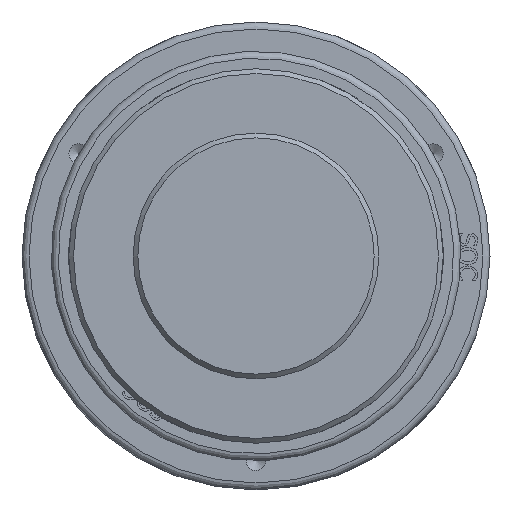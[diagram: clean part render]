
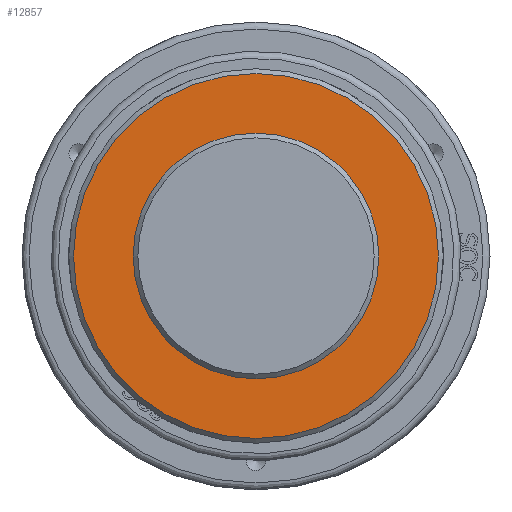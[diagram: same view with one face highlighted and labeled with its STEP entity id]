
A CAD part, front view. The second image highlights one B-rep face of the part: STEP entity #12857.
In plain terms, the highlighted planar face has unit normal (0, -1, 0) as drawn and (0, 1, 0) by its records, which use the part's own axes.
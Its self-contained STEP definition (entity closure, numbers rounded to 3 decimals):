
#90=CIRCLE('',#13494,78.);
#92=CIRCLE('',#13498,49.253);
#175=FACE_BOUND('',#1663,.T.);
#388=PLANE('',#13497);
#874=FACE_OUTER_BOUND('',#1662,.T.);
#1662=EDGE_LOOP('',(#10114));
#1663=EDGE_LOOP('',(#10115));
#5647=VERTEX_POINT('',#19955);
#5661=VERTEX_POINT('',#20195);
#7254=EDGE_CURVE('',#5647,#5647,#90,.T.);
#7268=EDGE_CURVE('',#5661,#5661,#92,.T.);
#10114=ORIENTED_EDGE('',*,*,#7254,.F.);
#10115=ORIENTED_EDGE('',*,*,#7268,.T.);
#12857=ADVANCED_FACE('',(#874,#175),#388,.T.);
#13494=AXIS2_PLACEMENT_3D('',#19956,#14562,#14563);
#13497=AXIS2_PLACEMENT_3D('',#20194,#14568,#14569);
#13498=AXIS2_PLACEMENT_3D('',#20196,#14570,#14571);
#14562=DIRECTION('center_axis',(0.,-1.,0.));
#14563=DIRECTION('ref_axis',(1.,0.,0.));
#14568=DIRECTION('center_axis',(0.,1.,0.));
#14569=DIRECTION('ref_axis',(0.,0.,1.));
#14570=DIRECTION('center_axis',(0.,-1.,0.));
#14571=DIRECTION('ref_axis',(1.,0.,0.));
#19955=CARTESIAN_POINT('',(-78.,52.5,0.));
#19956=CARTESIAN_POINT('Origin',(0.,52.5,0.));
#20194=CARTESIAN_POINT('Origin',(0.,52.5,0.));
#20195=CARTESIAN_POINT('',(-49.253,52.5,0.));
#20196=CARTESIAN_POINT('Origin',(0.,52.5,0.));
